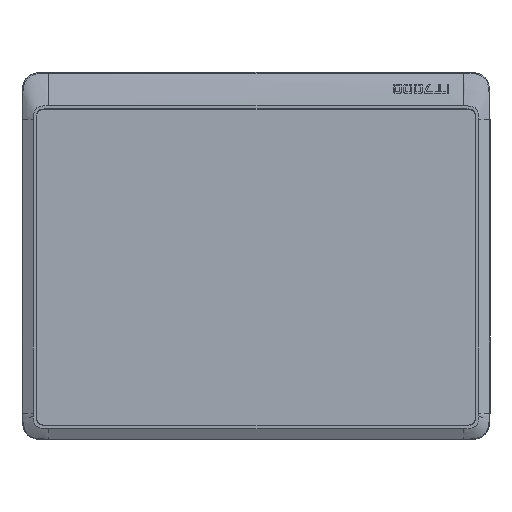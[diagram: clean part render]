
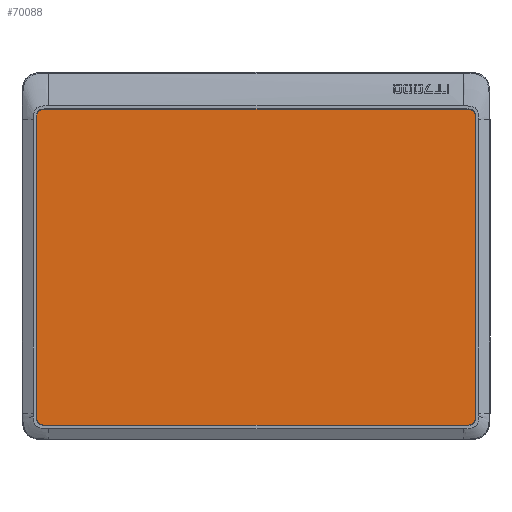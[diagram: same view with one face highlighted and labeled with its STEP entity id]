
A CAD part, top view. The second image highlights one B-rep face of the part: STEP entity #70088.
In plain terms, the highlighted planar face has unit normal (0, 0, 1).
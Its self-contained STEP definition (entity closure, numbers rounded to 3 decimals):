
#7075=CARTESIAN_POINT('',(-122.9,80.9,6.));
#7076=DIRECTION('',(0.,0.,-1.));
#7077=DIRECTION('',(-1.,0.,0.));
#7078=AXIS2_PLACEMENT_3D('',#7075,#7076,#7077);
#7080=DIRECTION('',(1.,0.,0.));
#7081=VECTOR('',#7080,245.8);
#7082=CARTESIAN_POINT('',(-122.9,84.9,6.));
#7083=LINE('',#7082,#7081);
#7084=CARTESIAN_POINT('',(122.9,80.9,6.));
#7085=DIRECTION('',(0.,0.,-1.));
#7086=DIRECTION('',(0.,1.,0.));
#7087=AXIS2_PLACEMENT_3D('',#7084,#7085,#7086);
#7089=DIRECTION('',(0.,-1.,0.));
#7090=VECTOR('',#7089,174.8);
#7091=CARTESIAN_POINT('',(126.9,80.9,6.));
#7092=LINE('',#7091,#7090);
#7093=CARTESIAN_POINT('',(122.9,-93.9,6.));
#7094=DIRECTION('',(0.,0.,-1.));
#7095=DIRECTION('',(1.,0.,0.));
#7096=AXIS2_PLACEMENT_3D('',#7093,#7094,#7095);
#7098=DIRECTION('',(-1.,0.,0.));
#7099=VECTOR('',#7098,245.8);
#7100=CARTESIAN_POINT('',(122.9,-97.9,6.));
#7101=LINE('',#7100,#7099);
#7102=CARTESIAN_POINT('',(-122.9,-93.9,6.));
#7103=DIRECTION('',(0.,0.,-1.));
#7104=DIRECTION('',(0.,-1.,0.));
#7105=AXIS2_PLACEMENT_3D('',#7102,#7103,#7104);
#7107=DIRECTION('',(0.,1.,0.));
#7108=VECTOR('',#7107,174.8);
#7109=CARTESIAN_POINT('',(-126.9,-93.9,6.));
#7110=LINE('',#7109,#7108);
#51544=CARTESIAN_POINT('',(-122.9,84.9,6.));
#51545=VERTEX_POINT('',#51544);
#51546=CARTESIAN_POINT('',(-126.9,80.9,6.));
#51547=VERTEX_POINT('',#51546);
#51548=CARTESIAN_POINT('',(122.9,84.9,6.));
#51549=VERTEX_POINT('',#51548);
#51550=CARTESIAN_POINT('',(126.9,80.9,6.));
#51551=VERTEX_POINT('',#51550);
#51552=CARTESIAN_POINT('',(126.9,-93.9,6.));
#51553=VERTEX_POINT('',#51552);
#51554=CARTESIAN_POINT('',(122.9,-97.9,6.));
#51555=VERTEX_POINT('',#51554);
#51556=CARTESIAN_POINT('',(-122.9,-97.9,6.));
#51557=VERTEX_POINT('',#51556);
#51558=CARTESIAN_POINT('',(-126.9,-93.9,6.));
#51559=VERTEX_POINT('',#51558);
#70073=CARTESIAN_POINT('',(0.,6.5,6.));
#70074=DIRECTION('',(0.,0.,1.));
#70075=DIRECTION('',(1.,0.,0.));
#70076=AXIS2_PLACEMENT_3D('',#70073,#70074,#70075);
#70077=PLANE('',#70076);
#70078=ORIENTED_EDGE('',*,*,#69913,.T.);
#70079=ORIENTED_EDGE('',*,*,#69935,.T.);
#70080=ORIENTED_EDGE('',*,*,#69956,.T.);
#70081=ORIENTED_EDGE('',*,*,#69977,.T.);
#70082=ORIENTED_EDGE('',*,*,#69998,.T.);
#70083=ORIENTED_EDGE('',*,*,#70019,.T.);
#70084=ORIENTED_EDGE('',*,*,#70040,.T.);
#70085=ORIENTED_EDGE('',*,*,#70060,.T.);
#70086=EDGE_LOOP('',(#70078,#70079,#70080,#70081,#70082,#70083,#70084,#70085));
#70087=FACE_OUTER_BOUND('',#70086,.F.);
#70088=ADVANCED_FACE('',(#70087),#70077,.T.);
#7079=CIRCLE('',#7078,4.);
#7088=CIRCLE('',#7087,4.);
#7097=CIRCLE('',#7096,4.);
#7106=CIRCLE('',#7105,4.);
#69913=EDGE_CURVE('',#51547,#51545,#7079,.T.);
#69935=EDGE_CURVE('',#51545,#51549,#7083,.T.);
#69956=EDGE_CURVE('',#51549,#51551,#7088,.T.);
#69977=EDGE_CURVE('',#51551,#51553,#7092,.T.);
#69998=EDGE_CURVE('',#51553,#51555,#7097,.T.);
#70019=EDGE_CURVE('',#51555,#51557,#7101,.T.);
#70040=EDGE_CURVE('',#51557,#51559,#7106,.T.);
#70060=EDGE_CURVE('',#51559,#51547,#7110,.T.);
